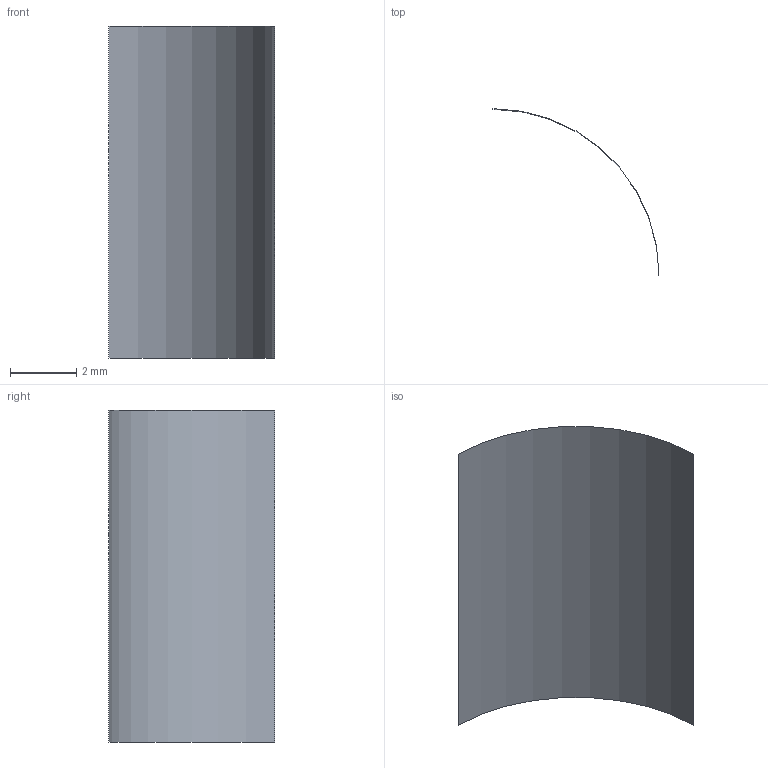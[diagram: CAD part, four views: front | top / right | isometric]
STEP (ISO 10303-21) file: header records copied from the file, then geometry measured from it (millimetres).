
FILE_DESCRIPTION(('A rational NURBS sheet'),'2;1');
FILE_NAME('NurbsSheet.step','2026-09-10T00:00:00',('UltraCanvas'),(''), 'hand-authored','hand-authored','');
FILE_SCHEMA(('AUTOMOTIVE_DESIGN { 1 0 10303 214 3 1 1 }'));
Length unit declared in the file: millimetre
Products named in the file (1): Sheet
Bounding box: 5 x 5 x 10 mm (x, y, z)
Surface area: 78.5 mm2 (no closed solid volume)
Topology: 0 solids, 1 shells, 1 faces, 4 edges, 4 vertices
Faces by surface type: bspline 1
Entity records: 45 total; most frequent: CARTESIAN_POINT 8, VERTEX_POINT 4, EDGE_CURVE 4, ORIENTED_EDGE 4, DIRECTION 2, AXIS2_PLACEMENT_3D 2, CIRCLE 2, LINE 2
